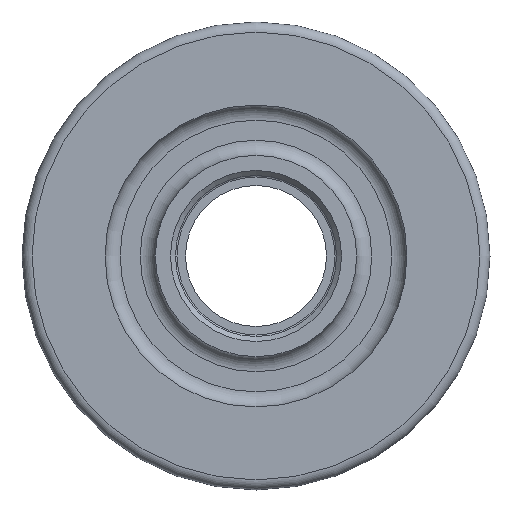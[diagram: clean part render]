
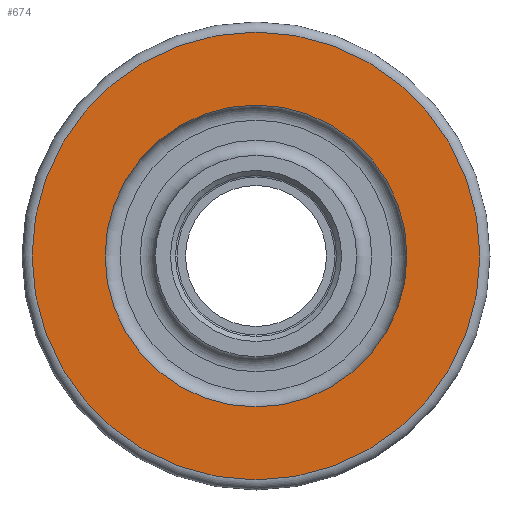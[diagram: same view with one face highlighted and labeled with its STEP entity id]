
A CAD part, left-side view. The second image highlights one B-rep face of the part: STEP entity #674.
In plain terms, the highlighted planar face has unit normal (-1, 0, 0).
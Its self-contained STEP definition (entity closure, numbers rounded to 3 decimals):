
#50=FACE_BOUND('',#132,.T.);
#58=PLANE('',#779);
#82=FACE_OUTER_BOUND('',#131,.T.);
#131=EDGE_LOOP('',(#536));
#132=EDGE_LOOP('',(#537));
#226=CIRCLE('',#778,30.);
#227=CIRCLE('',#780,44.5);
#303=VERTEX_POINT('',#1217);
#304=VERTEX_POINT('',#1221);
#387=EDGE_CURVE('',#303,#303,#226,.T.);
#388=EDGE_CURVE('',#304,#304,#227,.T.);
#536=ORIENTED_EDGE('',*,*,#388,.F.);
#537=ORIENTED_EDGE('',*,*,#387,.T.);
#674=ADVANCED_FACE('',(#82,#50),#58,.T.);
#778=AXIS2_PLACEMENT_3D('',#1219,#977,#978);
#779=AXIS2_PLACEMENT_3D('',#1220,#979,#980);
#780=AXIS2_PLACEMENT_3D('',#1222,#981,#982);
#977=DIRECTION('center_axis',(1.,0.,0.));
#978=DIRECTION('ref_axis',(0.,0.,-1.));
#979=DIRECTION('center_axis',(-1.,0.,0.));
#980=DIRECTION('ref_axis',(0.,0.,1.));
#981=DIRECTION('center_axis',(1.,0.,0.));
#982=DIRECTION('ref_axis',(0.,0.,-1.));
#1217=CARTESIAN_POINT('',(-17.5,-30.,0.));
#1219=CARTESIAN_POINT('Origin',(-17.5,0.,0.));
#1220=CARTESIAN_POINT('Origin',(-17.5,44.5,0.));
#1221=CARTESIAN_POINT('',(-17.5,0.,44.5));
#1222=CARTESIAN_POINT('Origin',(-17.5,0.,0.));
